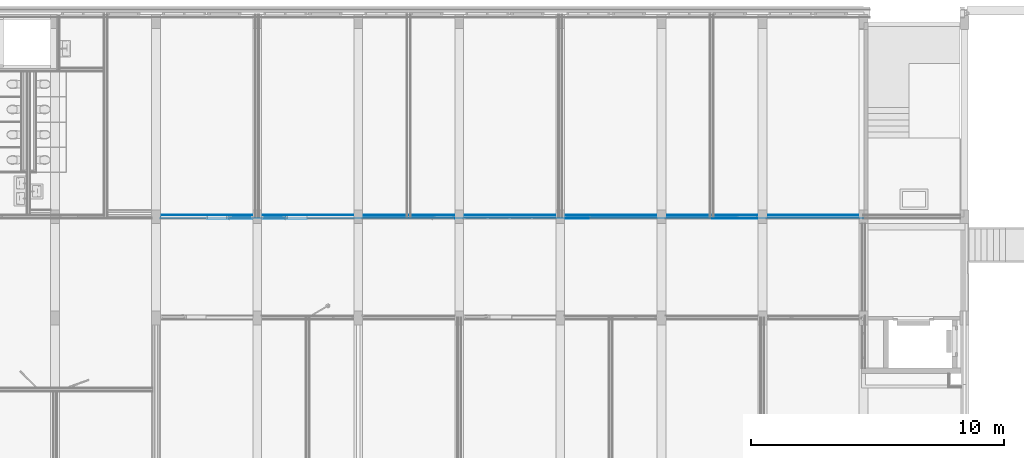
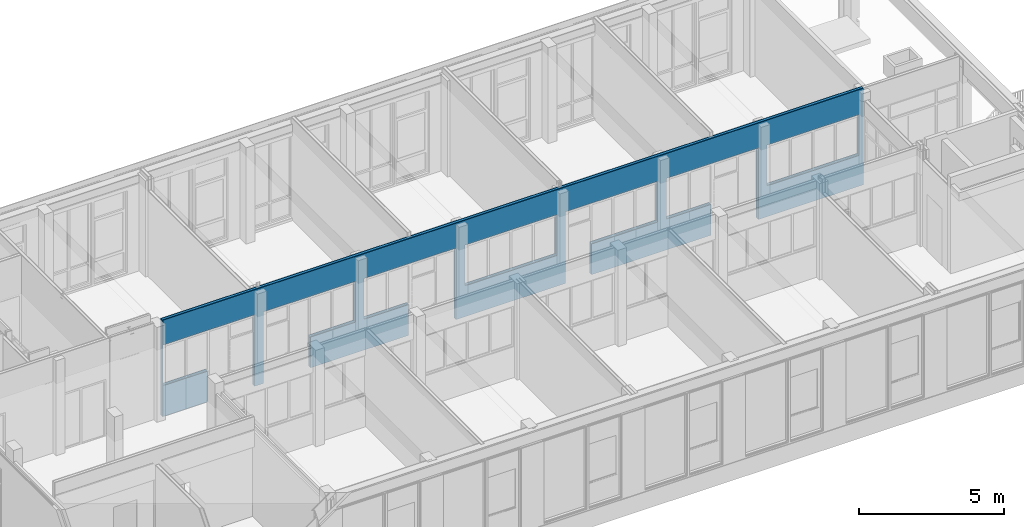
# One storey, part 32 of 54: 5 building element parts, 9 openings, 1 element without a shape of its own.
"""IFC2X3 building model written with IfcOpenShell, lengths in millimetres."""

from ifc_helpers import new_model, entity, si_unit, converted_unit, derived_unit, money_unit, direction, frame, origin_with_axes, place, context, subcontext, project, spatial, faceted_brep, material, type_object, element, aggregate, save


model = new_model("IFC2X3")

# Units and contexts
model_context = context("Model", 3, precision=0.01, world=origin_with_axes(), true_north=direction((0.0, 1.0)))
body_context = subcontext(model_context, "Body", "Model", "MODEL_VIEW")
ifc_project = project(units=[si_unit("LENGTHUNIT", "METRE", prefix="MILLI"), si_unit("AREAUNIT", "SQUARE_METRE"), si_unit("VOLUMEUNIT", "CUBIC_METRE"), converted_unit("PLANEANGLEUNIT", "DEGREE", entity("IfcPlaneAngleMeasure", 0.0174532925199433), si_unit("PLANEANGLEUNIT", "RADIAN"), dimensions=[0, 0, 0, 0, 0, 0, 0]), money_unit("EUR"), converted_unit("TIMEUNIT", "Year", entity("IfcTimeMeasure", 31557600.0), si_unit("TIMEUNIT", "SECOND"), dimensions=[0, 0, 1, 0, 0, 0, 0]), si_unit("MASSUNIT", "GRAM", prefix="KILO"), si_unit("THERMODYNAMICTEMPERATUREUNIT", "DEGREE_CELSIUS"), si_unit("LUMINOUSINTENSITYUNIT", "LUMEN"), si_unit("ENERGYUNIT", "JOULE", prefix="MEGA"), derived_unit("THERMALCONDUCTANCEUNIT", [(si_unit("POWERUNIT", "WATT"), 1), (si_unit("LENGTHUNIT", "METRE"), -1), (si_unit("THERMODYNAMICTEMPERATUREUNIT", "KELVIN"), -1)]), derived_unit("SPECIFICHEATCAPACITYUNIT", [(si_unit("ENERGYUNIT", "JOULE"), 1), (si_unit("MASSUNIT", "GRAM", prefix="KILO"), -1), (si_unit("THERMODYNAMICTEMPERATUREUNIT", "KELVIN"), -1)]), derived_unit("MASSDENSITYUNIT", [(si_unit("MASSUNIT", "GRAM", prefix="KILO"), 1), (si_unit("VOLUMEUNIT", "CUBIC_METRE"), -1)])], contexts=[model_context])

# Site, building, storey
site_placement = place(None, origin_with_axes())
site = spatial("IfcSite", under=ifc_project, at=site_placement, Name="<site naam>", CompositionType="ELEMENT")
building_placement = place(site_placement, origin_with_axes())
building = spatial("IfcBuilding", under=site, at=building_placement, Name="<Naam gebouw>", CompositionType="ELEMENT")
storey_placement = place(building_placement, frame((0.0, 0.0, 8500.0), z_axis=(0.0, 0.0, 1.0), x_axis=(1.0, 0.0, 0.0)))
storey = spatial("IfcBuildingStorey", under=building, at=storey_placement, Name="02 2e verdieping", CompositionType="ELEMENT", Elevation=8500.0)

# Wall, openings, building element parts
wall_type = type_object("IfcWallType", Name="MS-01 GF 150 ECO DGS/2.100.2.A 150", PredefinedType="NOTDEFINED")
wall_placement = place(storey_placement, frame((20175.00000000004, 12000.00000000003, 0.0), z_axis=(0.0, 0.0, 1.0), x_axis=(1.0, 0.0, 0.0)))
wall = element("IfcWall", 1, at=wall_placement, inside=storey, type_object=wall_type, Name="22_Binnenwand_MS-01")
opening_1_placement = place(wall_placement, frame((25824.96695173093, 0.0, 1300.000000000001), z_axis=(0.0, 0.0, 1.0), x_axis=(1.0, 0.0, 0.0)))
element("IfcOpeningElement", 2, at=opening_1_placement, cuts=wall, Name="22_BI-E-01_305", context=body_context, shape_type="Brep", body=[
    faceted_brep([(1824.966951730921, 76.00000000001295, 1699.999999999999), (1824.966951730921, 76.00000000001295, 0.0), (-1824.966951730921, 76.00000000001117, 0.0), (-1824.966951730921, 76.00000000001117, 1699.999999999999), (1824.966951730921, -76.00000000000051, 1699.999999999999), (1824.966951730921, -76.00000000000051, 0.0), (-1824.966951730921, -76.00000000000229, 0.0), (-1824.966951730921, -76.00000000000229, 1699.999999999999)], [[[0, 1, 2, 3]], [[4, 5, 1, 0]], [[5, 6, 2, 1]], [[6, 7, 3, 2]], [[7, 4, 0, 3]], [[6, 5, 4, 7]]]),
])
opening_2_placement = place(wall_placement, frame((927.888991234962, 0.0, 1300.000000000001), z_axis=(0.0, 0.0, 1.0), x_axis=(1.0, 0.0, 0.0)))
element("IfcOpeningElement", 3, at=opening_2_placement, cuts=wall, Name="22_BI-E-01_305", context=body_context, shape_type="Brep", body=[
    faceted_brep([(919.8280391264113, 75.99999999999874, 1699.999999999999), (919.8280391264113, 75.99999999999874, 0.0), (-919.8280391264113, 75.99999999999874, 0.0), (-919.8280391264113, 75.99999999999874, 1699.999999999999), (919.8280391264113, -76.00000000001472, 1699.999999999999), (919.8280391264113, -76.00000000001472, 0.0), (-919.8280391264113, -76.00000000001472, 0.0), (-919.8280391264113, -76.00000000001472, 1699.999999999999)], [[[0, 1, 2, 3]], [[4, 5, 1, 0]], [[5, 6, 2, 1]], [[6, 7, 3, 2]], [[7, 4, 0, 3]], [[6, 5, 4, 7]]]),
])
opening_3_placement = place(wall_placement, frame((6724.999999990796, 0.0, 1300.000000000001), z_axis=(0.0, 0.0, 1.0), x_axis=(1.0, 0.0, 0.0)))
element("IfcOpeningElement", 4, at=opening_3_placement, cuts=wall, Name="22_BI-E-01_305", context=body_context, shape_type="Brep", body=[
    faceted_brep([(925.0000000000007, 76.00000000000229, 1699.999999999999), (925.0000000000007, 76.00000000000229, 0.0), (-925.0000000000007, 76.00000000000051, 0.0), (-925.0000000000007, 76.00000000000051, 1699.999999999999), (925.0000000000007, -76.00000000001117, 1699.999999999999), (925.0000000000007, -76.00000000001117, 0.0), (-925.0000000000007, -76.00000000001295, 0.0), (-925.0000000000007, -76.00000000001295, 1699.999999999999)], [[[0, 1, 2, 3]], [[4, 5, 1, 0]], [[5, 6, 2, 1]], [[6, 7, 3, 2]], [[7, 4, 0, 3]], [[6, 5, 4, 7]]]),
])
opening_4_placement = place(wall_placement, frame((13824.95, 0.0, 1299.999999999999), z_axis=(0.0, 0.0, 1.0), x_axis=(1.0, 0.0, 0.0)))
element("IfcOpeningElement", 5, at=opening_4_placement, cuts=wall, Name="22_BI-E-01_305", context=body_context, shape_type="Brep", body=[
    faceted_brep([(1824.950000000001, 76.00000000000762, 1699.999999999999), (1824.950000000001, 76.00000000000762, 0.0), (-1824.950000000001, 76.00000000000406, 0.0), (-1824.950000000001, 76.00000000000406, 1699.999999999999), (1824.950000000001, -76.00000000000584, 1699.999999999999), (1824.950000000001, -76.00000000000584, 0.0), (-1824.950000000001, -76.0000000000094, 0.0), (-1824.950000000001, -76.0000000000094, 1699.999999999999)], [[[0, 1, 2, 3]], [[4, 5, 1, 0]], [[5, 6, 2, 1]], [[6, 7, 3, 2]], [[7, 4, 0, 3]], [[6, 5, 4, 7]]]),
])
opening_5_placement = place(wall_placement, frame((2716.5, 0.0, 0.0), z_axis=(0.0, 0.0, 1.0), x_axis=(1.0, 0.0, 0.0)))
element("IfcOpeningElement", 6, at=opening_5_placement, cuts=wall, Name="22_BI-E-02_305", context=body_context, shape_type="Brep", body=[
    faceted_brep([(933.4999999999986, 76.00000000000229, 3000.0), (933.4999999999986, 76.00000000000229, 0.0), (-933.4999999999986, 76.00000000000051, 0.0), (-933.4999999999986, 76.00000000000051, 3000.0), (933.4999999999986, -76.00000000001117, 3000.0), (933.4999999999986, -76.00000000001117, 0.0), (-933.4999999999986, -76.00000000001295, 0.0), (-933.4999999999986, -76.00000000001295, 3000.0)], [[[0, 1, 2, 3]], [[4, 5, 1, 0]], [[5, 6, 2, 1]], [[6, 7, 3, 2]], [[7, 4, 0, 3]], [[6, 5, 4, 7]]]),
])
opening_6_placement = place(wall_placement, frame((9824.999999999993, 0.0, 0.0), z_axis=(0.0, 0.0, 1.0), x_axis=(1.0, 0.0, 0.0)))
element("IfcOpeningElement", 7, at=opening_6_placement, cuts=wall, Name="22_BI-E-03 sp_305", context=body_context, shape_type="Brep", body=[
    faceted_brep([(-58.86501235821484, 76.00000000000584, 1300.000000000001), (-1825.000000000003, 76.00000000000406, 1300.000000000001), (-1825.000000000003, 76.00000000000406, 3000.0), (1825.000000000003, 76.00000000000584, 3000.0), (1825.000000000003, 76.00000000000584, 0.0), (-58.86501235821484, 76.00000000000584, 0.0), (-58.86501235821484, -76.00000000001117, 1300.000000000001), (-1825.000000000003, -76.00000000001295, 1300.000000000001), (-1825.000000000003, -76.00000000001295, 3000.0), (1825.000000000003, -76.00000000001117, 3000.0), (1825.000000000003, -76.00000000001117, 0.0), (-58.86501235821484, -76.00000000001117, 0.0)], [[[0, 1, 2, 3, 4, 5]], [[6, 7, 1, 0]], [[7, 8, 2, 1]], [[8, 9, 3, 2]], [[9, 10, 4, 3]], [[10, 11, 5, 4]], [[11, 6, 0, 5]], [[8, 7, 6, 11, 10, 9]]]),
])
opening_7_placement = place(wall_placement, frame((4933.499999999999, 0.0, 0.0), z_axis=(0.0, 0.0, 1.0), x_axis=(1.0, 0.0, 0.0)))
element("IfcOpeningElement", 8, at=opening_7_placement, cuts=wall, Name="22_BI-E-02 sp_305", context=body_context, shape_type="Brep", body=[
    faceted_brep([(933.4999999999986, 76.00000000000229, 3000.0), (933.4999999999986, 76.00000000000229, 0.0), (-933.4999999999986, 76.00000000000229, 0.0), (-933.4999999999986, 76.00000000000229, 3000.0), (933.4999999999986, -76.00000000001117, 3000.0), (933.4999999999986, -76.00000000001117, 0.0), (-933.4999999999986, -76.00000000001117, 0.0), (-933.4999999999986, -76.00000000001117, 3000.0)], [[[0, 1, 2, 3]], [[4, 5, 1, 0]], [[5, 6, 2, 1]], [[6, 7, 3, 2]], [[7, 4, 0, 3]], [[6, 5, 4, 7]]]),
])
opening_8_placement = place(wall_placement, frame((17824.99999999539, 0.0, 0.0), z_axis=(0.0, 0.0, 1.0), x_axis=(1.0, 0.0, 0.0)))
element("IfcOpeningElement", 9, at=opening_8_placement, cuts=wall, Name="22_BI-E-02 sp_305", context=body_context, shape_type="Brep", body=[
    faceted_brep([(-790.9999999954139, 76.0000000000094, 0.0), (-1824.999999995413, 76.0000000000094, 0.0), (-1824.999999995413, 76.0000000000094, 3000.0), (1824.999999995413, 76.00000000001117, 3000.0), (1824.999999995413, 76.00000000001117, 1300.000000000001), (-790.9999999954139, 76.0000000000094, 1300.000000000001), (-790.9999999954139, -76.00000000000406, 0.0), (-1824.999999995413, -76.00000000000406, 0.0), (-1824.999999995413, -76.00000000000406, 3000.0), (1824.999999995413, -76.00000000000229, 3000.0), (1824.999999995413, -76.00000000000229, 1300.000000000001), (-790.9999999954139, -76.00000000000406, 1300.000000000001)], [[[0, 1, 2, 3, 4, 5]], [[6, 7, 1, 0]], [[7, 8, 2, 1]], [[8, 9, 3, 2]], [[9, 10, 4, 3]], [[10, 11, 5, 4]], [[11, 6, 0, 5]], [[8, 7, 6, 11, 10, 9]]]),
])
opening_9_placement = place(wall_placement, frame((21825.00000000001, 0.0, 0.0), z_axis=(0.0, 0.0, 1.0), x_axis=(1.0, 0.0, 0.0)))
element("IfcOpeningElement", 10, at=opening_9_placement, cuts=wall, Name="22_BI-E-03 sp_305", context=body_context, shape_type="Brep", body=[
    faceted_brep([(-58.86501235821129, 76.00000000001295, 1300.000000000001), (-1825.000000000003, 76.00000000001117, 1300.000000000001), (-1825.000000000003, 76.00000000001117, 3000.0), (1825.000000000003, 76.00000000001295, 3000.0), (1825.000000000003, 76.00000000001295, 0.0), (-58.86501235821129, 76.00000000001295, 0.0), (-58.86501235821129, -76.00000000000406, 1300.000000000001), (-1825.000000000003, -76.00000000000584, 1300.000000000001), (-1825.000000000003, -76.00000000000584, 3000.0), (1825.000000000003, -76.00000000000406, 3000.0), (1825.000000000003, -76.00000000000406, 0.0), (-58.86501235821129, -76.00000000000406, 0.0)], [[[0, 1, 2, 3, 4, 5]], [[6, 7, 1, 0]], [[7, 8, 2, 1]], [[8, 9, 3, 2]], [[9, 10, 4, 3]], [[10, 11, 5, 4]], [[11, 6, 0, 5]], [[8, 7, 6, 11, 10, 9]]]),
])
ifc_material_1 = material(Name="gipsplaat")
building_element_part_1_placement = place(wall_placement, origin_with_axes())
building_element_part_1 = element("IfcBuildingElementPart", 11, at=building_element_part_1_placement, material=ifc_material_1, Name="gipsplaat", context=body_context, shape_type="Brep", body=[
    faceted_brep([(4967.736893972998, 62.50000000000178, 3.000000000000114), (4967.736893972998, 62.50000000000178, 0.0), (27825.0, 62.50000000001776, 0.0), (27825.0, 62.50000000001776, 4049.999999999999), (0.0, 62.5, 4049.999999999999), (0.0, 62.5, 0.0), (3999.99990020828, 62.50000000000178, 0.0), (3999.99990020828, 62.50000000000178, 3.000000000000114), (2705.231781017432, 62.5, 19.99999999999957), (2705.231781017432, 62.5, 22.99999999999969), (3649.999752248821, 62.50000000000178, 22.99999999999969), (3649.999752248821, 62.50000000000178, 19.99999999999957), (14699.50020134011, 62.50000000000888, 19.99999999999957), (14699.50020134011, 62.50000000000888, 22.99999999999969), (15650.00013553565, 62.50000000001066, 22.99999999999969), (15650.00013553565, 62.50000000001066, 19.99999999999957), (16000.00001592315, 62.50000000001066, 19.99999999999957), (16000.00001592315, 62.50000000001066, 22.99999999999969), (17033.99999999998, 62.50000000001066, 22.99999999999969), (17033.99999999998, 62.50000000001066, 19.99999999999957), (21899.81225075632, 62.50000000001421, 19.99999999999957), (21899.81225075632, 62.50000000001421, 22.99999999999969), (22867.13504223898, 62.50000000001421, 22.99999999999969), (22867.13504223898, 62.50000000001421, 19.99999999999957), (4967.736893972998, 75.00000000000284, 3.000000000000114), (4967.736893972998, 75.00000000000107, 0.0), (27825.0, 75.00000000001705, 0.0), (27825.0, 75.00000000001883, 4049.999999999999), (0.0, 75.00000000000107, 4049.999999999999), (0.0, 74.99999999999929, 0.0), (3999.99990020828, 75.00000000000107, 0.0), (3999.99990020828, 75.00000000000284, 3.000000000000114), (2705.231781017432, 75.00000000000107, 19.99999999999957), (2705.231781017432, 75.00000000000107, 22.99999999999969), (3649.999752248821, 75.00000000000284, 22.99999999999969), (3649.999752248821, 75.00000000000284, 19.99999999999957), (14699.50020134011, 75.00000000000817, 19.99999999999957), (14699.50020134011, 75.00000000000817, 22.99999999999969), (15650.00013553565, 75.00000000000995, 22.99999999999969), (15650.00013553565, 75.00000000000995, 19.99999999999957), (16000.00001592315, 75.00000000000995, 19.99999999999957), (16000.00001592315, 75.00000000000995, 22.99999999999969), (17033.99999999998, 75.00000000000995, 22.99999999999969), (17033.99999999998, 75.00000000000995, 19.99999999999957), (21899.81225075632, 75.00000000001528, 19.99999999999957), (21899.81225075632, 75.00000000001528, 22.99999999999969), (22867.13504223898, 75.00000000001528, 22.99999999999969), (22867.13504223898, 75.00000000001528, 19.99999999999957)], [[[0, 1, 2, 3, 4, 5, 6, 7], [8, 9, 10, 11], [12, 13, 14, 15], [16, 17, 18, 19], [20, 21, 22, 23]], [[24, 25, 1, 0]], [[1, 25, 26, 2]], [[2, 26, 27, 3]], [[4, 3, 27, 28]], [[28, 29, 5, 4]], [[30, 6, 5, 29]], [[30, 31, 7, 6]], [[31, 24, 0, 7]], [[32, 33, 9, 8]], [[33, 34, 10, 9]], [[34, 35, 11, 10]], [[35, 32, 8, 11]], [[36, 37, 13, 12]], [[37, 38, 14, 13]], [[38, 39, 15, 14]], [[39, 36, 12, 15]], [[40, 41, 17, 16]], [[41, 42, 18, 17]], [[42, 43, 19, 18]], [[43, 40, 16, 19]], [[44, 45, 21, 20]], [[45, 46, 22, 21]], [[46, 47, 23, 22]], [[47, 44, 20, 23]], [[31, 30, 29, 28, 27, 26, 25, 24], [32, 35, 34, 33], [36, 39, 38, 37], [40, 43, 42, 41], [44, 47, 46, 45]]]),
])
building_element_part_2_placement = place(wall_placement, origin_with_axes())
building_element_part_2 = element("IfcBuildingElementPart", 12, at=building_element_part_2_placement, material=ifc_material_1, Name="gipsplaat", context=body_context, shape_type="Brep", body=[
    faceted_brep([(0.0, -62.5, 0.0), (27825.0, -62.49999999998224, 0.0), (27825.0, -62.49999999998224, 4049.999999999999), (0.0, -62.5, 4049.999999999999), (16000.00001592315, -62.49999999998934, 19.99999999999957), (16000.00001592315, -62.49999999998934, 22.99999999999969), (17033.99999999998, -62.49999999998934, 22.99999999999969), (17033.99999999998, -62.49999999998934, 19.99999999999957), (21899.81225075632, -62.49999999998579, 19.99999999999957), (21899.81225075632, -62.49999999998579, 22.99999999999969), (22867.13504223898, -62.49999999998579, 22.99999999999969), (22867.13504223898, -62.49999999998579, 19.99999999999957), (0.0, -50.00000000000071, 0.0), (27825.0, -49.99999999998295, 0.0), (27825.0, -49.99999999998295, 4049.999999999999), (0.0, -49.99999999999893, 4049.999999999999), (16000.00001592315, -49.99999999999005, 19.99999999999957), (16000.00001592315, -49.99999999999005, 22.99999999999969), (17033.99999999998, -49.99999999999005, 22.99999999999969), (17033.99999999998, -49.99999999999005, 19.99999999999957), (21899.81225075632, -49.9999999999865, 19.99999999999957), (21899.81225075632, -49.9999999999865, 22.99999999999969), (22867.13504223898, -49.9999999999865, 22.99999999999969), (22867.13504223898, -49.9999999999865, 19.99999999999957), (14699.50020134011, -49.99999999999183, 19.99999999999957), (15650.00013553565, -49.99999999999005, 19.99999999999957), (15650.00013553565, -49.99999999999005, 22.99999999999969), (14699.50020134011, -49.99999999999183, 22.99999999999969), (14699.50020134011, -62.08677387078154, 19.99999999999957), (15650.00013553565, -62.08677387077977, 19.99999999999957), (15650.00013553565, -62.08677387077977, 22.99999999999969), (14699.50020134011, -62.08677387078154, 22.99999999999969)], [[[0, 1, 2, 3], [4, 5, 6, 7], [8, 9, 10, 11]], [[12, 13, 1, 0]], [[1, 13, 14, 2]], [[3, 2, 14, 15]], [[15, 12, 0, 3]], [[16, 17, 5, 4]], [[17, 18, 6, 5]], [[18, 19, 7, 6]], [[19, 16, 4, 7]], [[20, 21, 9, 8]], [[21, 22, 10, 9]], [[22, 23, 11, 10]], [[23, 20, 8, 11]], [[15, 14, 13, 12], [24, 25, 26, 27], [16, 19, 18, 17], [20, 23, 22, 21]], [[25, 24, 28, 29]], [[26, 25, 29, 30]], [[27, 26, 30, 31]], [[24, 27, 31, 28]], [[28, 31, 30, 29]]]),
])
ifc_material_2 = material(Name="isolatie_steenwol LSW")
building_element_part_3_placement = place(wall_placement, origin_with_axes())
building_element_part_3 = element("IfcBuildingElementPart", 13, at=building_element_part_3_placement, material=ifc_material_2, Name="isolatie_steenwol LSW", context=body_context, shape_type="Brep", body=[
    faceted_brep([(0.0, -50.00000000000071, 0.0), (27825.0, -49.99999999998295, 0.0), (27825.0, -49.99999999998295, 4049.999999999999), (0.0, -49.99999999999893, 4049.999999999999), (14699.50020134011, -49.99999999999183, 19.99999999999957), (14699.50020134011, -49.99999999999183, 22.99999999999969), (15650.00013553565, -49.99999999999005, 22.99999999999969), (15650.00013553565, -49.99999999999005, 19.99999999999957), (16000.00001592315, -49.99999999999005, 19.99999999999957), (16000.00001592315, -49.99999999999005, 22.99999999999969), (17033.99999999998, -49.99999999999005, 22.99999999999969), (17033.99999999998, -49.99999999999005, 19.99999999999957), (21899.81225075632, -49.9999999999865, 19.99999999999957), (21899.81225075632, -49.9999999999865, 22.99999999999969), (22867.13504223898, -49.9999999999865, 22.99999999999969), (22867.13504223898, -49.9999999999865, 19.99999999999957), (4967.736893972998, -27.63621360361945, 0.0), (4967.736893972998, 50.00000000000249, 0.0), (27825.0, 50.00000000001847, 0.0), (0.0, 50.00000000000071, 0.0), (3999.99990020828, 50.00000000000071, 0.0), (3999.99990020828, -27.63621360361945, 0.0), (27825.0, 50.00000000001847, 4049.999999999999), (0.0, 50.00000000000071, 4049.999999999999), (14699.50020134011, 50.00000000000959, 19.99999999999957), (14699.50020134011, 50.00000000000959, 22.99999999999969), (15650.00013553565, 50.00000000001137, 22.99999999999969), (15650.00013553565, 50.00000000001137, 19.99999999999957), (16000.00001592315, 50.00000000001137, 19.99999999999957), (16000.00001592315, 50.00000000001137, 22.99999999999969), (17033.99999999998, 50.00000000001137, 22.99999999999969), (17033.99999999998, 50.00000000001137, 19.99999999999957), (21899.81225075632, 50.00000000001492, 19.99999999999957), (21899.81225075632, 50.00000000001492, 22.99999999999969), (22867.13504223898, 50.00000000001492, 22.99999999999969), (22867.13504223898, 50.00000000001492, 19.99999999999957), (4967.736893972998, 50.00000000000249, 3.000000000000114), (4967.736893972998, -27.63621360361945, 3.000000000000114), (3999.99990020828, 50.00000000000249, 3.000000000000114), (2705.231781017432, 50.00000000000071, 19.99999999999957), (3649.999752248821, 50.00000000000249, 19.99999999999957), (3649.999752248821, 50.00000000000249, 22.99999999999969), (2705.231781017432, 50.00000000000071, 22.99999999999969), (3999.99990020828, -27.63621360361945, 3.000000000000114), (2705.231781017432, -24.86172226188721, 19.99999999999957), (3649.999752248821, -24.86172226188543, 19.99999999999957), (3649.999752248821, -24.86172226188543, 22.99999999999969), (2705.231781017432, -24.86172226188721, 22.99999999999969)], [[[0, 1, 2, 3], [4, 5, 6, 7], [8, 9, 10, 11], [12, 13, 14, 15]], [[16, 17, 18, 1, 0, 19, 20, 21]], [[1, 18, 22, 2]], [[3, 2, 22, 23]], [[23, 19, 0, 3]], [[24, 25, 5, 4]], [[25, 26, 6, 5]], [[26, 27, 7, 6]], [[27, 24, 4, 7]], [[28, 29, 9, 8]], [[29, 30, 10, 9]], [[30, 31, 11, 10]], [[31, 28, 8, 11]], [[32, 33, 13, 12]], [[33, 34, 14, 13]], [[34, 35, 15, 14]], [[35, 32, 12, 15]], [[36, 17, 16, 37]], [[38, 20, 19, 23, 22, 18, 17, 36], [39, 40, 41, 42], [24, 27, 26, 25], [28, 31, 30, 29], [32, 35, 34, 33]], [[20, 38, 43, 21]], [[16, 21, 43, 37]], [[38, 36, 37, 43]], [[40, 39, 44, 45]], [[41, 40, 45, 46]], [[42, 41, 46, 47]], [[39, 42, 47, 44]], [[44, 47, 46, 45]]]),
])
building_element_part_4_placement = place(wall_placement, origin_with_axes())
building_element_part_4 = element("IfcBuildingElementPart", 14, at=building_element_part_4_placement, material=ifc_material_1, Name="gipsplaat", context=body_context, shape_type="Brep", body=[
    faceted_brep([(3650.000000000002, -74.99999999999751, 3000.0), (0.0, -74.99999999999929, 3000.0), (0.0, -74.99999999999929, 0.0), (27825.0, -74.99999999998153, 0.0), (27825.0, -74.99999999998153, 4049.999999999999), (0.0, -74.99999999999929, 4049.999999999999), (0.0, -74.99999999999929, 3039.999999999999), (3650.000000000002, -74.99999999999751, 3039.999999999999), (3999.999999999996, -74.99999999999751, 3000.0), (3999.999999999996, -74.99999999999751, 3039.999999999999), (7649.999999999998, -74.99999999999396, 3039.999999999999), (7649.999999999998, -74.99999999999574, 3000.0), (7999.999999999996, -74.99999999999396, 3000.0), (7999.999999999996, -74.99999999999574, 3039.999999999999), (11649.99999999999, -74.99999999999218, 3039.999999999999), (11649.99999999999, -74.99999999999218, 3000.0), (12000.0, -74.99999999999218, 3000.0), (12000.0, -74.99999999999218, 3039.999999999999), (15650.0, -74.99999999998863, 3039.999999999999), (15650.0, -74.99999999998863, 3000.0), (16000.0, -74.99999999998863, 3000.0), (16000.0, -74.99999999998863, 3039.999999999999), (19650.0, -74.99999999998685, 3039.999999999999), (19650.0, -74.99999999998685, 3000.0), (20000.00000000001, -74.99999999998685, 3000.0), (20000.00000000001, -74.99999999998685, 3039.999999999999), (23650.00000000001, -74.99999999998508, 3039.999999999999), (23650.00000000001, -74.99999999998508, 3000.0), (24000.0, -74.99999999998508, 3000.0), (24000.0, -74.99999999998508, 3039.999999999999), (27650.0, -74.9999999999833, 3039.999999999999), (27650.0, -74.9999999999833, 3000.0), (16000.00001592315, -75.00000000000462, 19.99999999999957), (16000.00001592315, -75.00000000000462, 22.99999999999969), (17033.99999999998, -75.00000000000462, 22.99999999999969), (17033.99999999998, -75.00000000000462, 19.99999999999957), (21899.81225075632, -75.00000000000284, 19.99999999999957), (21899.81225075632, -75.00000000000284, 22.99999999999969), (22867.13504223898, -75.00000000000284, 22.99999999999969), (22867.13504223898, -75.00000000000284, 19.99999999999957), (3650.000000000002, -72.92360871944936, 3000.0), (0.0, -72.92360871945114, 3000.0), (0.0, -72.92360871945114, 3039.999999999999), (0.0, -62.5, 4049.999999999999), (0.0, -62.5, 0.0), (27825.0, -62.49999999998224, 0.0), (27825.0, -62.49999999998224, 4049.999999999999), (3650.000000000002, -72.92360871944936, 3039.999999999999), (3999.999999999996, -72.92360871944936, 3000.0), (3999.999999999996, -72.92360871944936, 3039.999999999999), (7649.999999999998, -72.92360871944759, 3039.999999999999), (7649.999999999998, -72.92360871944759, 3000.0), (7999.999999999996, -72.92360871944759, 3000.0), (7999.999999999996, -72.92360871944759, 3039.999999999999), (11649.99999999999, -72.92360871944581, 3039.999999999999), (11649.99999999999, -72.92360871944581, 3000.0), (12000.0, -72.92360871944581, 3000.0), (12000.0, -72.92360871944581, 3039.999999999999), (15650.0, -72.92360871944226, 3039.999999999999), (15650.0, -72.92360871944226, 3000.0), (16000.0, -72.92360871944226, 3000.0), (16000.0, -72.92360871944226, 3039.999999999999), (19650.0, -72.92360871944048, 3039.999999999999), (19650.0, -72.92360871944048, 3000.0), (20000.00000000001, -72.92360871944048, 3000.0), (20000.00000000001, -72.92360871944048, 3039.999999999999), (23650.00000000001, -72.9236087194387, 3039.999999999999), (23650.00000000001, -72.9236087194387, 3000.0), (24000.0, -72.9236087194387, 3000.0), (24000.0, -72.9236087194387, 3039.999999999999), (27650.0, -72.92360871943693, 3039.999999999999), (27650.0, -72.92360871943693, 3000.0), (16000.00001592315, -62.49999999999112, 19.99999999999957), (16000.00001592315, -62.49999999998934, 22.99999999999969), (17033.99999999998, -62.49999999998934, 22.99999999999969), (17033.99999999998, -62.49999999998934, 19.99999999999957), (21899.81225075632, -62.49999999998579, 19.99999999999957), (21899.81225075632, -62.49999999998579, 22.99999999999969), (22867.13504223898, -62.49999999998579, 22.99999999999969), (22867.13504223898, -62.49999999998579, 19.99999999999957)], [[[0, 1, 2, 3, 4, 5, 6, 7], [8, 9, 10, 11], [12, 13, 14, 15], [16, 17, 18, 19], [20, 21, 22, 23], [24, 25, 26, 27], [28, 29, 30, 31], [32, 33, 34, 35], [36, 37, 38, 39]], [[1, 0, 40, 41]], [[42, 6, 5, 43, 44, 2, 1, 41]], [[44, 45, 3, 2]], [[3, 45, 46, 4]], [[5, 4, 46, 43]], [[7, 6, 42, 47]], [[0, 7, 47, 40]], [[9, 8, 48, 49]], [[10, 9, 49, 50]], [[11, 10, 50, 51]], [[8, 11, 51, 48]], [[13, 12, 52, 53]], [[14, 13, 53, 54]], [[15, 14, 54, 55]], [[12, 15, 55, 52]], [[17, 16, 56, 57]], [[18, 17, 57, 58]], [[19, 18, 58, 59]], [[16, 19, 59, 56]], [[21, 20, 60, 61]], [[22, 21, 61, 62]], [[23, 22, 62, 63]], [[20, 23, 63, 60]], [[25, 24, 64, 65]], [[26, 25, 65, 66]], [[27, 26, 66, 67]], [[24, 27, 67, 64]], [[29, 28, 68, 69]], [[30, 29, 69, 70]], [[31, 30, 70, 71]], [[28, 31, 71, 68]], [[72, 73, 33, 32]], [[73, 74, 34, 33]], [[74, 75, 35, 34]], [[75, 72, 32, 35]], [[76, 77, 37, 36]], [[77, 78, 38, 37]], [[78, 79, 39, 38]], [[79, 76, 36, 39]], [[42, 41, 40, 47]], [[43, 46, 45, 44], [72, 75, 74, 73], [76, 79, 78, 77]], [[49, 48, 51, 50]], [[54, 53, 52, 55]], [[59, 58, 57, 56]], [[60, 63, 62, 61]], [[65, 64, 67, 66]], [[70, 69, 68, 71]]]),
])
building_element_part_5_placement = place(wall_placement, origin_with_axes())
building_element_part_5 = element("IfcBuildingElementPart", 15, at=building_element_part_5_placement, material=ifc_material_1, Name="gipsplaat", context=body_context, shape_type="Brep", body=[
    faceted_brep([(4967.736893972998, 50.00000000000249, 3.000000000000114), (4967.736893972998, 50.00000000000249, 0.0), (27825.0, 50.00000000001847, 0.0), (27825.0, 50.00000000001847, 4049.999999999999), (0.0, 50.00000000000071, 4049.999999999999), (0.0, 50.00000000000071, 0.0), (3999.99990020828, 50.00000000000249, 0.0), (3999.99990020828, 50.00000000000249, 3.000000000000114), (2705.231781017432, 50.00000000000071, 19.99999999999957), (2705.231781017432, 50.00000000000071, 22.99999999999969), (3649.999752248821, 50.00000000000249, 22.99999999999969), (3649.999752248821, 50.00000000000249, 19.99999999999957), (14699.50020134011, 50.00000000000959, 19.99999999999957), (14699.50020134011, 50.00000000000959, 22.99999999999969), (15650.00013553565, 50.00000000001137, 22.99999999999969), (15650.00013553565, 50.00000000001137, 19.99999999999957), (16000.00001592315, 50.00000000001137, 19.99999999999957), (16000.00001592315, 50.00000000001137, 22.99999999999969), (17033.99999999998, 50.00000000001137, 22.99999999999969), (17033.99999999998, 50.00000000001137, 19.99999999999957), (21899.81225075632, 50.00000000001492, 19.99999999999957), (21899.81225075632, 50.00000000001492, 22.99999999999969), (22867.13504223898, 50.00000000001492, 22.99999999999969), (22867.13504223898, 50.00000000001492, 19.99999999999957), (4967.736893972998, 62.50000000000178, 3.000000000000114), (4967.736893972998, 62.50000000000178, 0.0), (27825.0, 62.50000000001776, 0.0), (27825.0, 62.50000000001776, 4049.999999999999), (0.0, 62.5, 4049.999999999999), (0.0, 62.5, 0.0), (3999.99990020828, 62.50000000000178, 0.0), (3999.99990020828, 62.50000000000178, 3.000000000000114), (2705.231781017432, 62.5, 19.99999999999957), (2705.231781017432, 62.5, 22.99999999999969), (3649.999752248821, 62.50000000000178, 22.99999999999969), (3649.999752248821, 62.50000000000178, 19.99999999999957), (14699.50020134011, 62.50000000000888, 19.99999999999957), (14699.50020134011, 62.50000000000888, 22.99999999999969), (15650.00013553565, 62.50000000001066, 22.99999999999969), (15650.00013553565, 62.50000000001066, 19.99999999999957), (16000.00001592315, 62.50000000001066, 19.99999999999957), (16000.00001592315, 62.50000000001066, 22.99999999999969), (17033.99999999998, 62.50000000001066, 22.99999999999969), (17033.99999999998, 62.50000000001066, 19.99999999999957), (21899.81225075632, 62.50000000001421, 19.99999999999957), (21899.81225075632, 62.50000000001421, 22.99999999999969), (22867.13504223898, 62.50000000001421, 22.99999999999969), (22867.13504223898, 62.50000000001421, 19.99999999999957)], [[[0, 1, 2, 3, 4, 5, 6, 7], [8, 9, 10, 11], [12, 13, 14, 15], [16, 17, 18, 19], [20, 21, 22, 23]], [[24, 25, 1, 0]], [[1, 25, 26, 2]], [[2, 26, 27, 3]], [[4, 3, 27, 28]], [[28, 29, 5, 4]], [[30, 6, 5, 29]], [[30, 31, 7, 6]], [[31, 24, 0, 7]], [[32, 33, 9, 8]], [[33, 34, 10, 9]], [[34, 35, 11, 10]], [[35, 32, 8, 11]], [[36, 37, 13, 12]], [[37, 38, 14, 13]], [[38, 39, 15, 14]], [[39, 36, 12, 15]], [[40, 41, 17, 16]], [[41, 42, 18, 17]], [[42, 43, 19, 18]], [[43, 40, 16, 19]], [[44, 45, 21, 20]], [[45, 46, 22, 21]], [[46, 47, 23, 22]], [[47, 44, 20, 23]], [[31, 30, 29, 28, 27, 26, 25, 24], [32, 35, 34, 33], [36, 39, 38, 37], [40, 43, 42, 41], [44, 47, 46, 45]]]),
])
aggregate(wall, [building_element_part_1, building_element_part_2, building_element_part_3, building_element_part_4, building_element_part_5])

save(model, "model.ifc")
